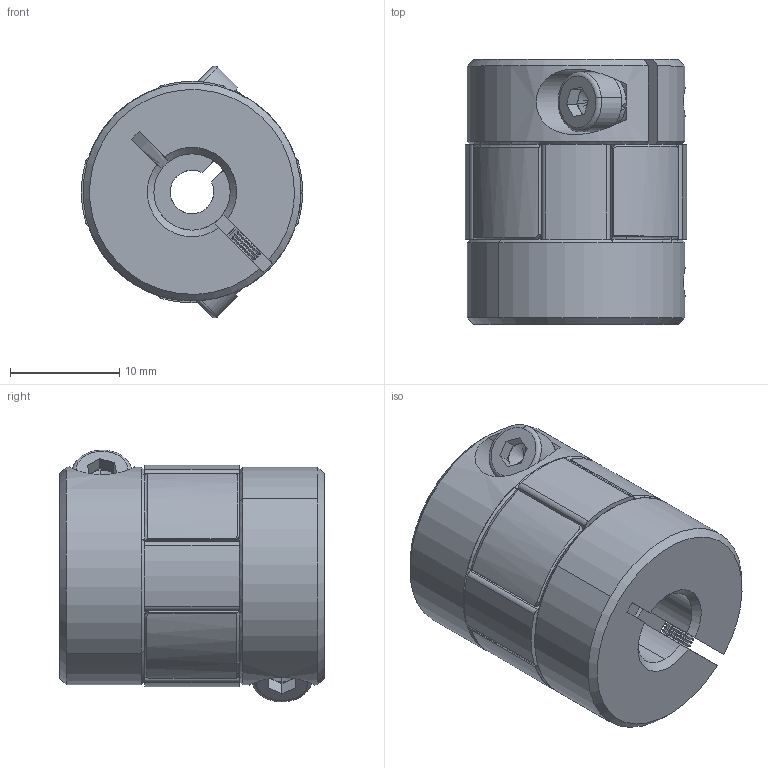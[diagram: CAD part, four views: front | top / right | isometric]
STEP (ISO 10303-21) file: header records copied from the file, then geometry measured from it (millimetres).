
FILE_DESCRIPTION (( 'STEP AP203' ), '1' );
FILE_NAME ('LF-B-D20L25-4-7.STEP', '2021-10-20T01:09:46', ( '' ), ( '' ), 'SwSTEP 2.0', 'SolidWorks 2018', '' );
FILE_SCHEMA (( 'CONFIG_CONTROL_DESIGN' ));
Length unit declared in the file: millimetre
Products named in the file (1): LF-B-D20L25-4-7
Bounding box: 20.31 x 24.3 x 23.09 mm (x, y, z)
Volume: 6631.3 mm3; surface area: 3572.3 mm2
Topology: 1 solids, 1 shells, 428 faces, 1069 edges, 633 vertices
Faces by surface type: cylinder 165, cone 158, plane 93, torus 12
Entity records: 13093 total; most frequent: CARTESIAN_POINT 2714, DIRECTION 2316, ORIENTED_EDGE 2130, EDGE_CURVE 1065, AXIS2_PLACEMENT_3D 953, VERTEX_POINT 633, CIRCLE 524, EDGE_LOOP 444
